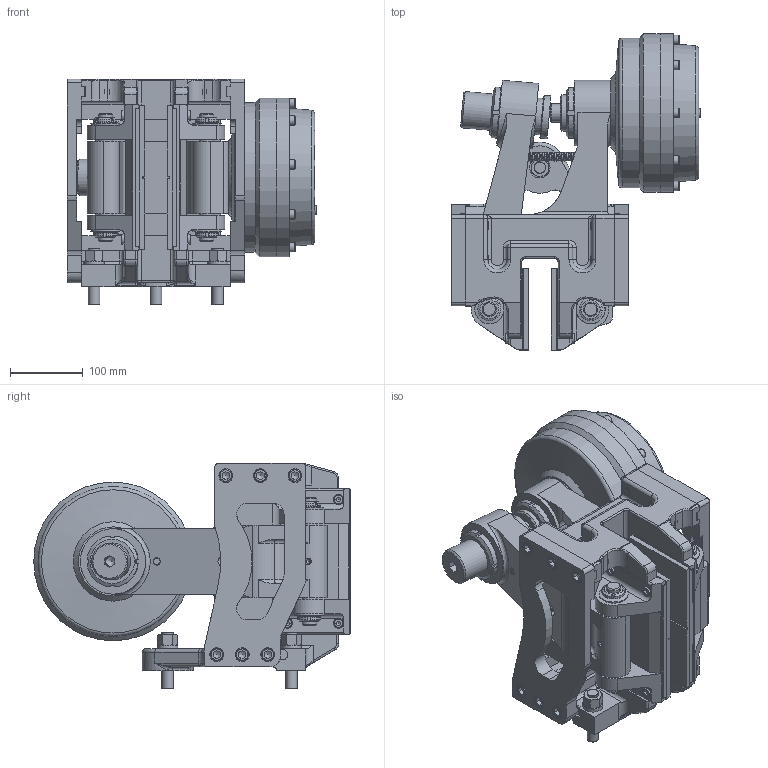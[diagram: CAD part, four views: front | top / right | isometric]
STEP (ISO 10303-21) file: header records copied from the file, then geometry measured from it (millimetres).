
FILE_DESCRIPTION(/* description */ ('','CAx-IF Rec.Pracs.---Representation and Presentation of Product Manufacturing Information (PMI)---4.0---2014-10-13'),/* implementation_level */ '2;1');
FILE_NAME(/* name */ 'X:\INVENTOR\DISEGNI\19_Pinze\STEP x Sito\PNEUM-NEGATIVE\19_36_064_05 PPT-N064_30.stp',/* time_stamp */ '2018-10-25T16:19:02+02:00',/* author */ ('stefano'),/* organization */ (''),/* preprocessor_version */ 'ST-DEVELOPER v17',/* originating_system */ 'Autodesk Inventor 2018',/* authorisation */ '');
FILE_SCHEMA (('AP242_MANAGED_MODEL_BASED_3D_ENGINEERING_MIM_LF { 1 0 10303 442 1 1 4 }'));
Length unit declared in the file: millimetre
Products named in the file (1): 19_36_064_05 PPT-N064_30_Substitute_2
Bounding box: 343.25 x 435 x 310 mm (x, y, z)
Volume: 9883745.8 mm3; surface area: 1204803.5 mm2
Topology: 1 solids, 1 shells, 1759 faces, 4812 edges, 3123 vertices
Faces by surface type: plane 853, cylinder 504, cone 178, torus 173, bspline 31, sphere 20
Full cylindrical faces by diameter (mm): 1.8 x2, 4.917 x6, 5 x1, 6.3 x6, 6.917 x1, 7.4 x1, 7.5 x2, 8 x8, 8.376 x1, 8.5 x8, 8.917 x2, 9 x1, 9.188 x1, 10 x3, 10.106 x3, 10.5 x5, 11.445 x1, 12 x15, 12.5 x12, 13 x17, 13.5 x8, 14 x1, 16 x6, 16.5 x5, 17 x3, 18 x13, 18.631 x1, 19 x12, 20 x13, 22 x6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
Entity records: 65430 total; most frequent: CARTESIAN_POINT 19001, DIRECTION 9564, ORIENTED_EDGE 9480, EDGE_CURVE 4740, AXIS2_PLACEMENT_3D 3688, VERTEX_POINT 3123, LINE 2188, VECTOR 2188
